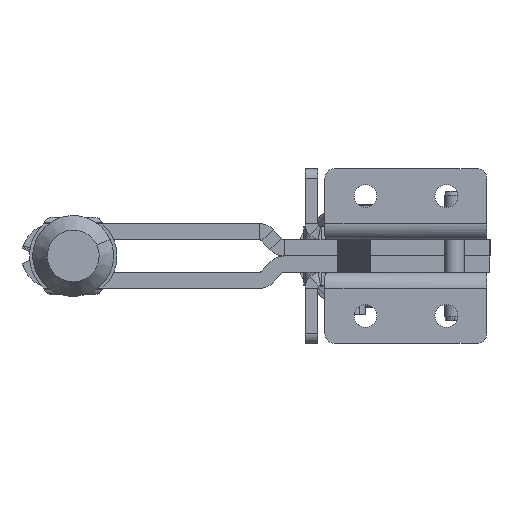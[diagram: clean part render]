
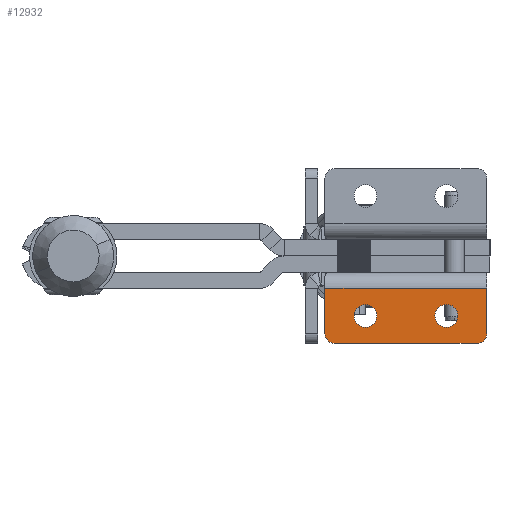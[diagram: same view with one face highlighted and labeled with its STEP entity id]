
A CAD part, front view. The second image highlights one B-rep face of the part: STEP entity #12932.
In plain terms, the highlighted planar face has unit normal (0, -1, 0).
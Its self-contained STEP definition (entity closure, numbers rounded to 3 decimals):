
#627 = VERTEX_POINT ( 'NONE', #19682 ) ;
#1314 = ORIENTED_EDGE ( 'NONE', *, *, #22391, .F. ) ;
#2041 = VECTOR ( 'NONE', #47296, 1000. ) ;
#2450 = CARTESIAN_POINT ( 'NONE',  ( 47., -2.143, 60.087 ) ) ;
#2890 = DIRECTION ( 'NONE',  ( 0., 1., 0. ) ) ;
#3263 = CARTESIAN_POINT ( 'NONE',  ( 50., -2.143, 43.083 ) ) ;
#4548 = VECTOR ( 'NONE', #22388, 1000. ) ;
#5164 = DIRECTION ( 'NONE',  ( 0., 1., 0. ) ) ;
#5234 = CARTESIAN_POINT ( 'NONE',  ( 37.5, -2.143, 51.587 ) ) ;
#5818 = AXIS2_PLACEMENT_3D ( 'NONE', #39097, #8690, #13922 ) ;
#6452 = CARTESIAN_POINT ( 'NONE',  ( 3., -2.143, 57.087 ) ) ;
#7590 = EDGE_CURVE ( 'NONE', #42234, #10103, #15561, .T. ) ;
#8173 = CIRCLE ( 'NONE', #16150, 3.5 ) ;
#8438 = VERTEX_POINT ( 'NONE', #45223 ) ;
#8690 = DIRECTION ( 'NONE',  ( 0., -1., 0. ) ) ;
#9161 = CARTESIAN_POINT ( 'NONE',  ( 51.5, -2.143, 43.083 ) ) ;
#9336 = CIRCLE ( 'NONE', #51708, 3.54 ) ;
#9508 = PLANE ( 'NONE',  #5818 ) ;
#9898 = CARTESIAN_POINT ( 'NONE',  ( 12.5, -2.143, 51.587 ) ) ;
#10103 = VERTEX_POINT ( 'NONE', #3263 ) ;
#10328 = DIRECTION ( 'NONE',  ( 0., 1., 0. ) ) ;
#10822 = VECTOR ( 'NONE', #47330, 1000. ) ;
#11975 = EDGE_CURVE ( 'NONE', #45388, #14740, #9336, .T. ) ;
#12932 = ADVANCED_FACE ( 'NONE', ( #47401, #42426, #46582 ), #9508, .T. ) ;
#13922 = DIRECTION ( 'NONE',  ( -1., 0., 0. ) ) ;
#14740 = VERTEX_POINT ( 'NONE', #21960 ) ;
#15043 = EDGE_LOOP ( 'NONE', ( #27139, #46542 ) ) ;
#15561 = LINE ( 'NONE', #40738, #22938 ) ;
#16150 = AXIS2_PLACEMENT_3D ( 'NONE', #5234, #46466, #16854 ) ;
#16239 = CIRCLE ( 'NONE', #28641, 3. ) ;
#16379 = DIRECTION ( 'NONE',  ( 0., 0., -1. ) ) ;
#16854 = DIRECTION ( 'NONE',  ( 0., 0., 1. ) ) ;
#16950 = CARTESIAN_POINT ( 'NONE',  ( 50., -2.143, 57.087 ) ) ;
#17128 = CARTESIAN_POINT ( 'NONE',  ( 0., -2.143, -21.273 ) ) ;
#17719 = LINE ( 'NONE', #9161, #10822 ) ;
#18068 = AXIS2_PLACEMENT_3D ( 'NONE', #36913, #2890, #24474 ) ;
#18428 = DIRECTION ( 'NONE',  ( 0., 0., 1. ) ) ;
#19320 = VERTEX_POINT ( 'NONE', #2450 ) ;
#19682 = CARTESIAN_POINT ( 'NONE',  ( 0., -2.143, 57.087 ) ) ;
#20959 = VERTEX_POINT ( 'NONE', #49351 ) ;
#21440 = EDGE_CURVE ( 'NONE', #34823, #40334, #8173, .T. ) ;
#21960 = CARTESIAN_POINT ( 'NONE',  ( 12.5, -2.143, 55.127 ) ) ;
#22388 = DIRECTION ( 'NONE',  ( 0., 0., 1. ) ) ;
#22391 = EDGE_CURVE ( 'NONE', #8438, #19320, #29608, .T. ) ;
#22938 = VECTOR ( 'NONE', #16379, 1000. ) ;
#23358 = CIRCLE ( 'NONE', #18068, 3.54 ) ;
#23949 = CARTESIAN_POINT ( 'NONE',  ( 12.5, -2.143, 48.047 ) ) ;
#24474 = DIRECTION ( 'NONE',  ( 0., 0., 1. ) ) ;
#26518 = DIRECTION ( 'NONE',  ( 0., 0., 1. ) ) ;
#26994 = CARTESIAN_POINT ( 'NONE',  ( 47., -2.143, 57.087 ) ) ;
#27139 = ORIENTED_EDGE ( 'NONE', *, *, #11975, .T. ) ;
#28641 = AXIS2_PLACEMENT_3D ( 'NONE', #6452, #10328, #49044 ) ;
#28849 = ORIENTED_EDGE ( 'NONE', *, *, #7590, .F. ) ;
#29608 = LINE ( 'NONE', #51170, #2041 ) ;
#29683 = ORIENTED_EDGE ( 'NONE', *, *, #31371, .F. ) ;
#30380 = ORIENTED_EDGE ( 'NONE', *, *, #21440, .T. ) ;
#30837 = EDGE_CURVE ( 'NONE', #627, #8438, #16239, .T. ) ;
#31371 = EDGE_CURVE ( 'NONE', #19320, #42234, #50756, .T. ) ;
#31606 = ORIENTED_EDGE ( 'NONE', *, *, #42704, .F. ) ;
#32522 = CARTESIAN_POINT ( 'NONE',  ( 37.5, -2.143, 55.087 ) ) ;
#34823 = VERTEX_POINT ( 'NONE', #32522 ) ;
#35496 = AXIS2_PLACEMENT_3D ( 'NONE', #51706, #47280, #26518 ) ;
#35598 = DIRECTION ( 'NONE',  ( 0., 1., 0. ) ) ;
#35742 = AXIS2_PLACEMENT_3D ( 'NONE', #26994, #5164, #18428 ) ;
#36371 = CIRCLE ( 'NONE', #35496, 3.5 ) ;
#36913 = CARTESIAN_POINT ( 'NONE',  ( 12.5, -2.143, 51.587 ) ) ;
#39097 = CARTESIAN_POINT ( 'NONE',  ( 51.5, -2.143, -21.273 ) ) ;
#40334 = VERTEX_POINT ( 'NONE', #50898 ) ;
#40738 = CARTESIAN_POINT ( 'NONE',  ( 50., -2.143, -21.273 ) ) ;
#40755 = ORIENTED_EDGE ( 'NONE', *, *, #44849, .F. ) ;
#42234 = VERTEX_POINT ( 'NONE', #16950 ) ;
#42426 = FACE_BOUND ( 'NONE', #46808, .T. ) ;
#42704 = EDGE_CURVE ( 'NONE', #10103, #20959, #17719, .T. ) ;
#44815 = EDGE_CURVE ( 'NONE', #40334, #34823, #36371, .T. ) ;
#44849 = EDGE_CURVE ( 'NONE', #20959, #627, #47546, .T. ) ;
#45223 = CARTESIAN_POINT ( 'NONE',  ( 3., -2.143, 60.087 ) ) ;
#45388 = VERTEX_POINT ( 'NONE', #23949 ) ;
#46466 = DIRECTION ( 'NONE',  ( 0., 1., 0. ) ) ;
#46542 = ORIENTED_EDGE ( 'NONE', *, *, #54383, .T. ) ;
#46582 = FACE_OUTER_BOUND ( 'NONE', #49259, .T. ) ;
#46808 = EDGE_LOOP ( 'NONE', ( #48051, #30380 ) ) ;
#47280 = DIRECTION ( 'NONE',  ( 0., 1., 0. ) ) ;
#47296 = DIRECTION ( 'NONE',  ( 1., 0., 0. ) ) ;
#47330 = DIRECTION ( 'NONE',  ( -1., 0., 0. ) ) ;
#47401 = FACE_BOUND ( 'NONE', #15043, .T. ) ;
#47546 = LINE ( 'NONE', #17128, #4548 ) ;
#48051 = ORIENTED_EDGE ( 'NONE', *, *, #44815, .T. ) ;
#49044 = DIRECTION ( 'NONE',  ( 0., 0., 1. ) ) ;
#49259 = EDGE_LOOP ( 'NONE', ( #31606, #28849, #29683, #1314, #52788, #40755 ) ) ;
#49351 = CARTESIAN_POINT ( 'NONE',  ( 0., -2.143, 43.083 ) ) ;
#50656 = DIRECTION ( 'NONE',  ( 0., 0., 1. ) ) ;
#50756 = CIRCLE ( 'NONE', #35742, 3. ) ;
#50898 = CARTESIAN_POINT ( 'NONE',  ( 37.5, -2.143, 48.087 ) ) ;
#51170 = CARTESIAN_POINT ( 'NONE',  ( 51.5, -2.143, 60.087 ) ) ;
#51706 = CARTESIAN_POINT ( 'NONE',  ( 37.5, -2.143, 51.587 ) ) ;
#51708 = AXIS2_PLACEMENT_3D ( 'NONE', #9898, #35598, #50656 ) ;
#52788 = ORIENTED_EDGE ( 'NONE', *, *, #30837, .F. ) ;
#54383 = EDGE_CURVE ( 'NONE', #14740, #45388, #23358, .T. ) ;
